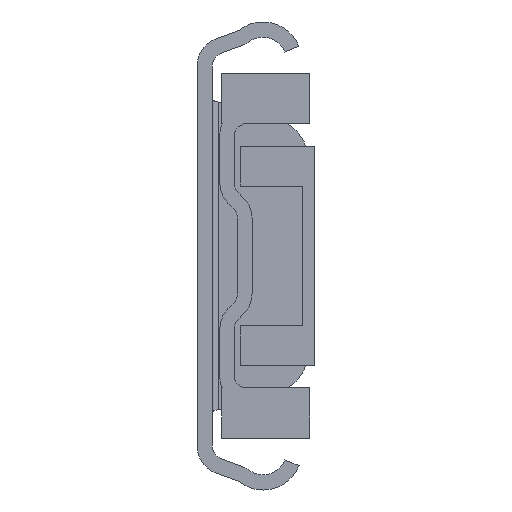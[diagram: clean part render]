
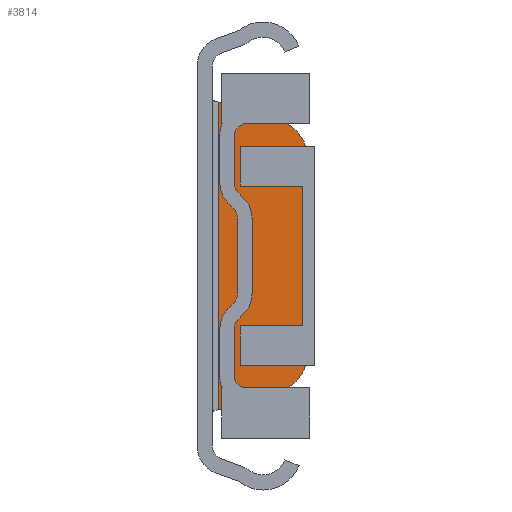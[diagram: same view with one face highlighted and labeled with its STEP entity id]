
A CAD part, front view. The second image highlights one B-rep face of the part: STEP entity #3814.
In plain terms, the highlighted planar face has unit normal (0, -1, 0).
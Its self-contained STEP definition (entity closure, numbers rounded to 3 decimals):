
#337=LINE('',#6547,#720);
#338=LINE('',#6552,#721);
#339=LINE('',#6556,#722);
#340=LINE('',#6558,#723);
#720=VECTOR('',#5419,1000.);
#721=VECTOR('',#5422,1000.);
#722=VECTOR('',#5425,1000.);
#723=VECTOR('',#5426,1000.);
#887=PLANE('',#4506);
#1731=ORIENTED_EDGE('',*,*,#2427,.F.);
#1732=ORIENTED_EDGE('',*,*,#2428,.F.);
#1733=ORIENTED_EDGE('',*,*,#2429,.F.);
#1734=ORIENTED_EDGE('',*,*,#2430,.F.);
#1735=ORIENTED_EDGE('',*,*,#2431,.F.);
#1736=ORIENTED_EDGE('',*,*,#2432,.F.);
#2427=EDGE_CURVE('',#2848,#2849,#337,.T.);
#2428=EDGE_CURVE('',#2850,#2848,#3060,.F.);
#2429=EDGE_CURVE('',#2851,#2850,#338,.T.);
#2430=EDGE_CURVE('',#2852,#2851,#3061,.F.);
#2431=EDGE_CURVE('',#2853,#2852,#339,.T.);
#2432=EDGE_CURVE('',#2849,#2853,#340,.T.);
#2848=VERTEX_POINT('',#6548);
#2849=VERTEX_POINT('',#6549);
#2850=VERTEX_POINT('',#6551);
#2851=VERTEX_POINT('',#6553);
#2852=VERTEX_POINT('',#6555);
#2853=VERTEX_POINT('',#6557);
#3060=CIRCLE('',#4507,8.);
#3061=CIRCLE('',#4508,8.);
#3283=EDGE_LOOP('',(#1731,#1732,#1733,#1734,#1735,#1736));
#3524=FACE_BOUND('',#3283,.T.);
#3814=ADVANCED_FACE('',(#3524),#887,.T.);
#4506=AXIS2_PLACEMENT_3D('',#6546,#5417,#5418);
#4507=AXIS2_PLACEMENT_3D('',#6550,#5420,#5421);
#4508=AXIS2_PLACEMENT_3D('',#6554,#5423,#5424);
#5417=DIRECTION('',(0.,-1.,0.));
#5418=DIRECTION('',(0.,0.,-1.));
#5419=DIRECTION('',(-0.966,0.,-0.259));
#5420=DIRECTION('',(0.,-1.,0.));
#5421=DIRECTION('',(0.,0.,-1.));
#5422=DIRECTION('',(0.,0.,-1.));
#5423=DIRECTION('',(0.,-1.,0.));
#5424=DIRECTION('',(0.,0.,-1.));
#5425=DIRECTION('',(0.966,0.,-0.259));
#5426=DIRECTION('',(0.,0.,1.));
#6546=CARTESIAN_POINT('',(12.9,556.3,14.965));
#6547=CARTESIAN_POINT('',(22.316,556.3,-20.174));
#6548=CARTESIAN_POINT('',(12.471,556.3,-22.812));
#6549=CARTESIAN_POINT('',(3.5,556.3,-25.216));
#6550=CARTESIAN_POINT('',(10.4,556.3,-15.085));
#6551=CARTESIAN_POINT('',(18.4,556.3,-15.085));
#6552=CARTESIAN_POINT('',(18.4,556.3,14.965));
#6553=CARTESIAN_POINT('',(18.4,556.3,15.085));
#6554=CARTESIAN_POINT('',(10.4,556.3,15.085));
#6555=CARTESIAN_POINT('',(12.471,556.3,22.812));
#6556=CARTESIAN_POINT('',(14.833,556.3,22.179));
#6557=CARTESIAN_POINT('',(3.5,556.3,25.216));
#6558=CARTESIAN_POINT('',(3.5,556.3,-25.766));
